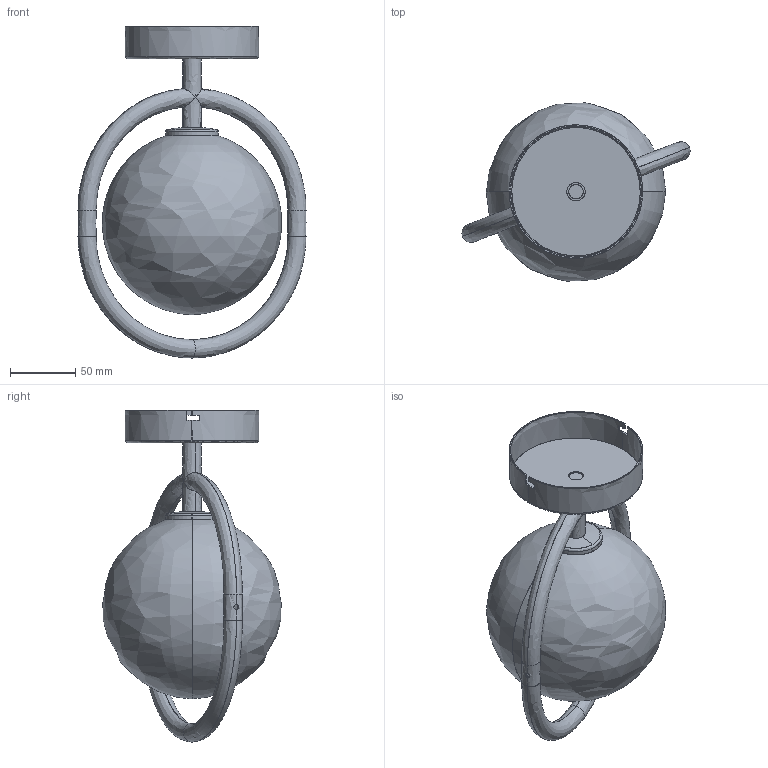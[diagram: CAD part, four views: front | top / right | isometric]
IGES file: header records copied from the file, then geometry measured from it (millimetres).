
Start section: SolidWorks IGES file using analytic representation for surfaces
Global section: file name: C:\Users\Agus\Desktop\AROMAS\Libreria modelos\1258\A1258\3D\A1258.IGS; native system: SolidWorks 2016; preprocessor: SolidWorks 2016; author: Agus; date: 180205.180803; units: millimetre
Bounding box: 174.11 x 136.03 x 253.5 mm (x, y, z)
Surface area: 206978 mm2 (no closed solid volume)
Topology: 0 solids, 0 shells, 120 faces, 2486 edges, 2482 vertices
Faces by surface type: bspline 70, revolution 50
